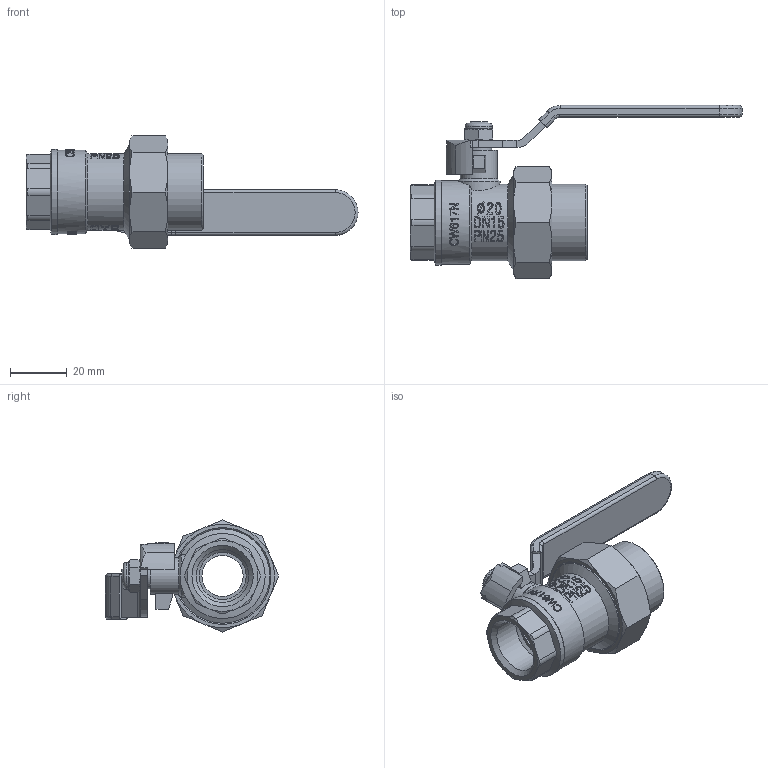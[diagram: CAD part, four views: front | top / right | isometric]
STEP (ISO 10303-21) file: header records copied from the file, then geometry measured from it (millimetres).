
FILE_DESCRIPTION(/* description */ (''),/* implementation_level */ '2;1');
FILE_NAME(/* name */ 'E:\Артём\00000\Работа удаленка\VTp.742\VTp.742.0.02004.stp',/* time_stamp */ '2020-04-06T15:24:08+03:00',/* author */ ('BeN_GaN'),/* organization */ (''),/* preprocessor_version */ 'ST-DEVELOPER v18',/* originating_system */ 'Autodesk Inventor 2020',/* authorisation */ '');
FILE_SCHEMA (('AUTOMOTIVE_DESIGN { 1 0 10303 214 3 1 1 }'));
Length unit declared in the file: millimetre
Products named in the file (1): VTp.742.0.02004
Bounding box: 117.05 x 61.06 x 39.51 mm (x, y, z)
Volume: 37417.2 mm3; surface area: 19376.8 mm2
Topology: 1 solids, 7 shells, 1203 faces, 3236 edges, 2155 vertices
Faces by surface type: plane 629, bspline 370, cylinder 119, cone 61, torus 22, sphere 2
Full cylindrical faces by diameter (mm): 4 x1, 6.6 x1, 9 x3, 9.5 x1, 10.5 x1, 13 x1, 14.5 x3, 14.6 x2, 15 x2, 18 x1, 18.6 x1, 21 x1, 27 x2, 29.5 x1, 30 x1, 33.3 x1
Entity records: 42664 total; most frequent: CARTESIAN_POINT 14942, ORIENTED_EDGE 6468, DIRECTION 4449, EDGE_CURVE 3234, VERTEX_POINT 2155, LINE 1861, VECTOR 1861, EDGE_LOOP 1327
